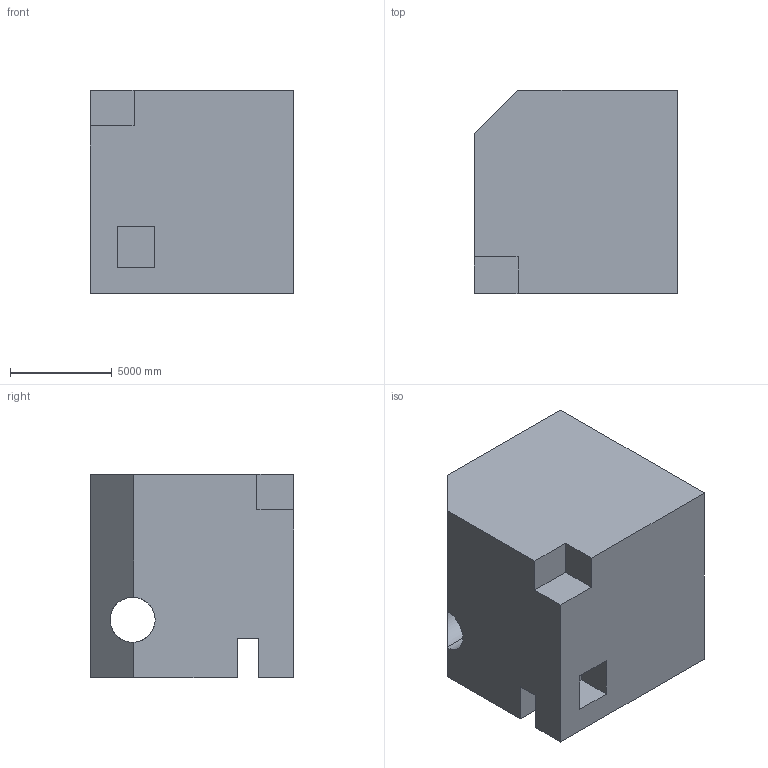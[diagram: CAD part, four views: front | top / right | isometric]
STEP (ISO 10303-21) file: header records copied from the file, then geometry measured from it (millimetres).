
FILE_DESCRIPTION (( 'STEP AP203' ), '1' );
FILE_NAME ('768.STEP', '2022-07-29T13:04:32', ( 'user' ), ( '' ), 'SwSTEP 2.0', 'SolidWorks 2021', '' );
FILE_SCHEMA (( 'CONFIG_CONTROL_DESIGN' ));
Length unit declared in the file: centimetre
Products named in the file (1): 768
Bounding box: 10000 x 10000 x 10000 mm (x, y, z)
Volume: 855261655855.3 mm3; surface area: 765323463.4 mm2
Topology: 1 solids, 1 shells, 32 faces, 105 edges, 70 vertices
Faces by surface type: plane 24, cylinder 8
Entity records: 2297 total; most frequent: CARTESIAN_POINT 1300, ORIENTED_EDGE 210, DIRECTION 171, EDGE_CURVE 105, VECTOR 77, LINE 77, VERTEX_POINT 70, AXIS2_PLACEMENT_3D 47
